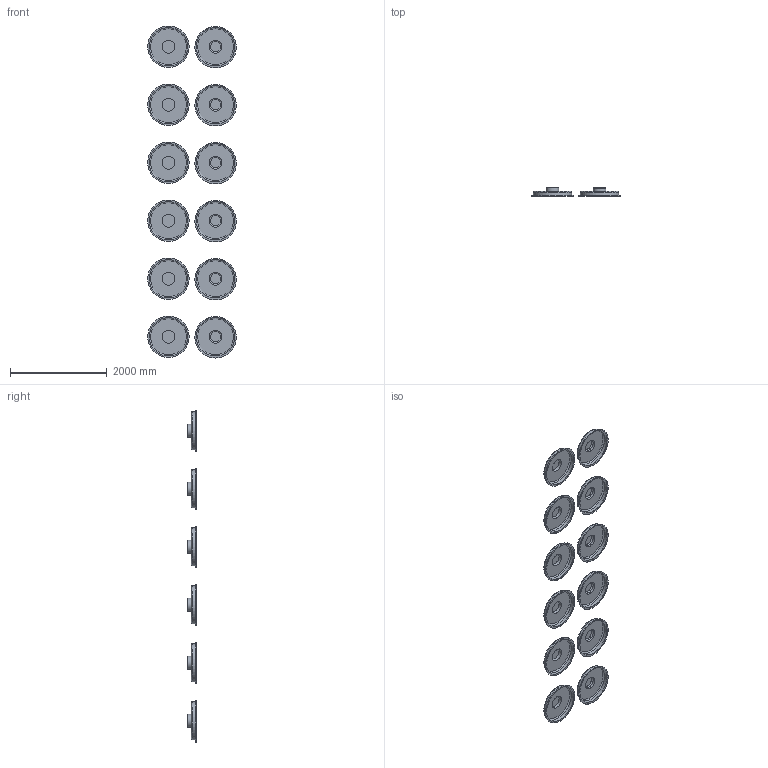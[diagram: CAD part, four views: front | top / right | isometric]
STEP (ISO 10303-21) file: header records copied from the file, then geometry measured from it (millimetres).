
FILE_DESCRIPTION(/* description */ (''),/* implementation_level */ '2;1');
FILE_NAME(/* name */ 'L:\DSGN\Revit Content\Mechanical Components\BAC\R2016\TSDC-II\TSDC-II-NH3-2x6-Front.stp',/* time_stamp */ '2019-03-27T13:59:54+01:00',/* author */ ('jvandermieren'),/* organization */ (''),/* preprocessor_version */ 'ST-DEVELOPER v16.5',/* originating_system */ 'Autodesk Inventor 2017',/* authorisation */ '');
FILE_SCHEMA (('AUTOMOTIVE_DESIGN { 1 0 10303 214 3 1 1 }'));
Length unit declared in the file: inch
Products named in the file (1): TSDC-II-NH3-2X6 Front
Bounding box: 1830.83 x 166.37 x 6868.08 mm (x, y, z)
Volume: 6151657.2 mm3; surface area: 26244537.1 mm2
Topology: 12 solids, 28 shells, 114 faces, 168 edges, 102 vertices
Faces by surface type: plane 48, cylinder 48, torus 18
Full cylindrical faces by diameter (mm): 265.176 x12, 794.766 x24, 856.996 x12
Entity records: 7751 total; most frequent: DIRECTION 1294, CARTESIAN_POINT 1236, ORIENTED_EDGE 1076, EDGE_CURVE 526, EDGE_LOOP 492, AXIS2_PLACEMENT_3D 458, VERTEX_POINT 400, LINE 378
